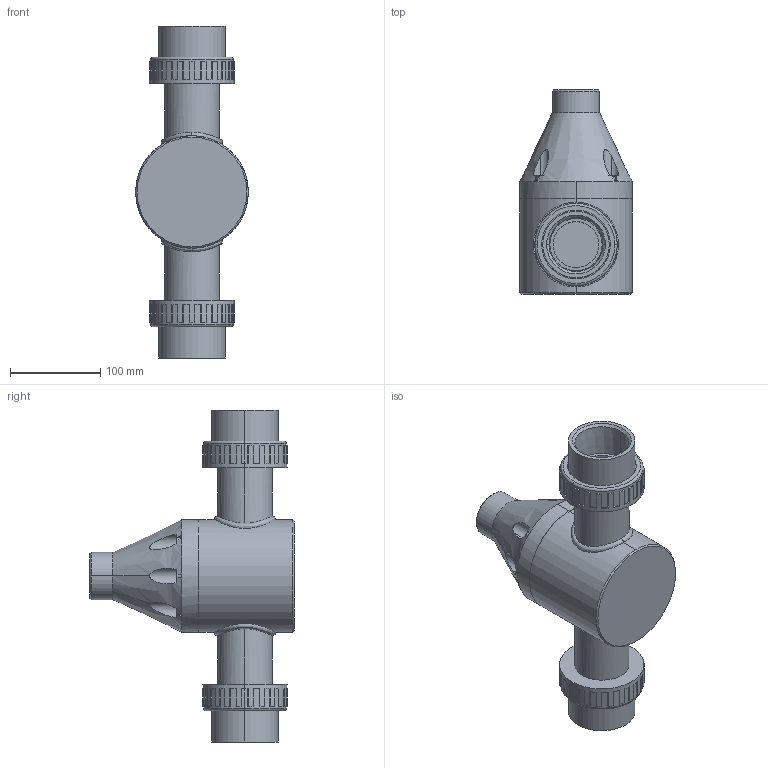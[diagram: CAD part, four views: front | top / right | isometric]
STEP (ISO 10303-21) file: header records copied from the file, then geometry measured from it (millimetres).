
FILE_DESCRIPTION (( 'STEP AP203' ), '1' );
FILE_NAME ('GPR2000-UNION.STEP', '2016-09-16T00:27:26', ( '' ), ( '' ), 'SwSTEP 2.0', 'SolidWorks 2014', '' );
FILE_SCHEMA (( 'CONFIG_CONTROL_DESIGN' ));
Length unit declared in the file: inch
Products named in the file (2): GPR2000-UNION
Bounding box: 124.46 x 226.06 x 367.03 mm (x, y, z)
Volume: 2705819.4 mm3; surface area: 211157.3 mm2
Topology: 2 solids, 2 shells, 416 faces, 1112 edges, 726 vertices
Faces by surface type: plane 312, cylinder 62, cone 32, bspline 6, torus 4
Entity records: 17351 total; most frequent: CARTESIAN_POINT 6640, ORIENTED_EDGE 2224, DIRECTION 2216, EDGE_CURVE 1112, AXIS2_PLACEMENT_3D 764, VERTEX_POINT 726, VECTOR 688, LINE 688
